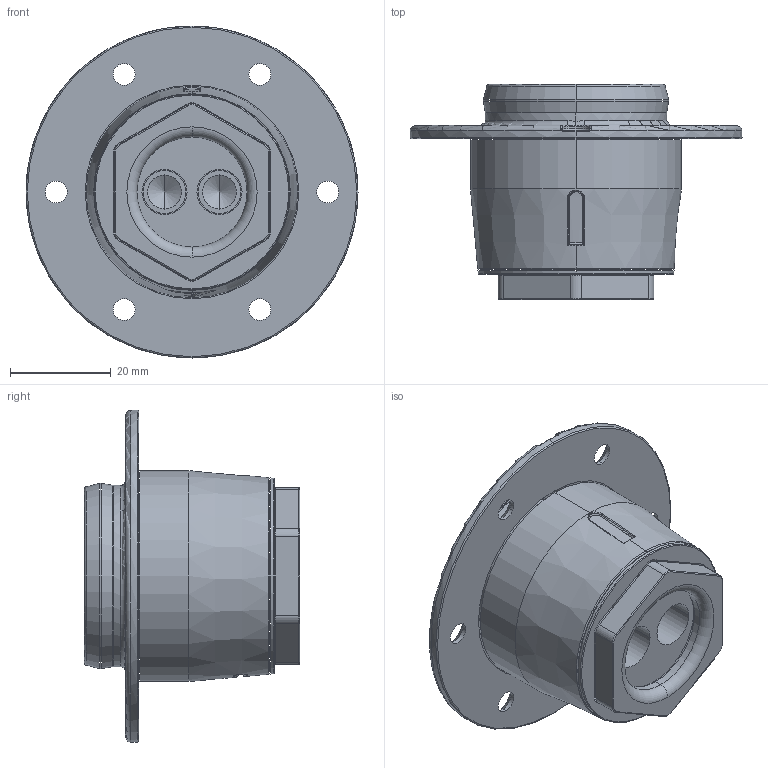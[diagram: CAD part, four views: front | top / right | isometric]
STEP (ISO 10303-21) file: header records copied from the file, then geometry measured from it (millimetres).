
FILE_DESCRIPTION((''),'2;1');
FILE_NAME('LCN-EC8X2-PMF_ASM','2025-06-27T12:54:11',('Neil'),(''),'CREO PARAMETRIC BY PTC INC, 2023134','CREO PARAMETRIC BY PTC INC, 2023134','');
FILE_SCHEMA(('AUTOMOTIVE_DESIGN { 1 0 10303 214 1 1 1 1 }'));
Length unit declared in the file: millimetre
Products named in the file (1): LCN-EC8X2-PMF_ASM
Bounding box: 65.9 x 42.71 x 65.9 mm (x, y, z)
Surface area: 16800.6 mm2 (no closed solid volume)
Topology: 0 solids, 17 shells, 207 faces, 589 edges, 383 vertices
Faces by surface type: cylinder 67, torus 46, cone 40, plane 28, bspline 26
Entity records: 12351 total; most frequent: CARTESIAN_POINT 5664, DIRECTION 1164, ORIENTED_EDGE 958, EDGE_CURVE 581, AXIS2_PLACEMENT_3D 505, VERTEX_POINT 383, CIRCLE 323, EDGE_LOOP 235
